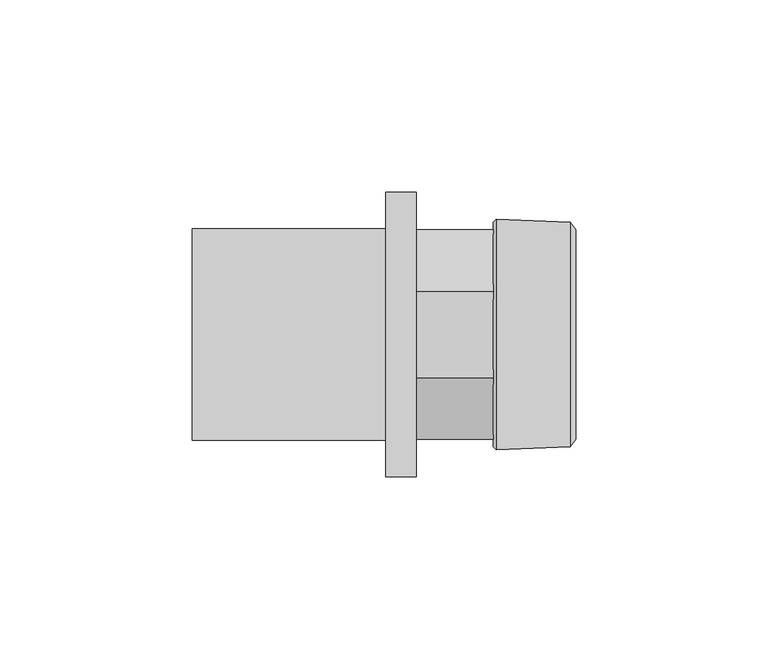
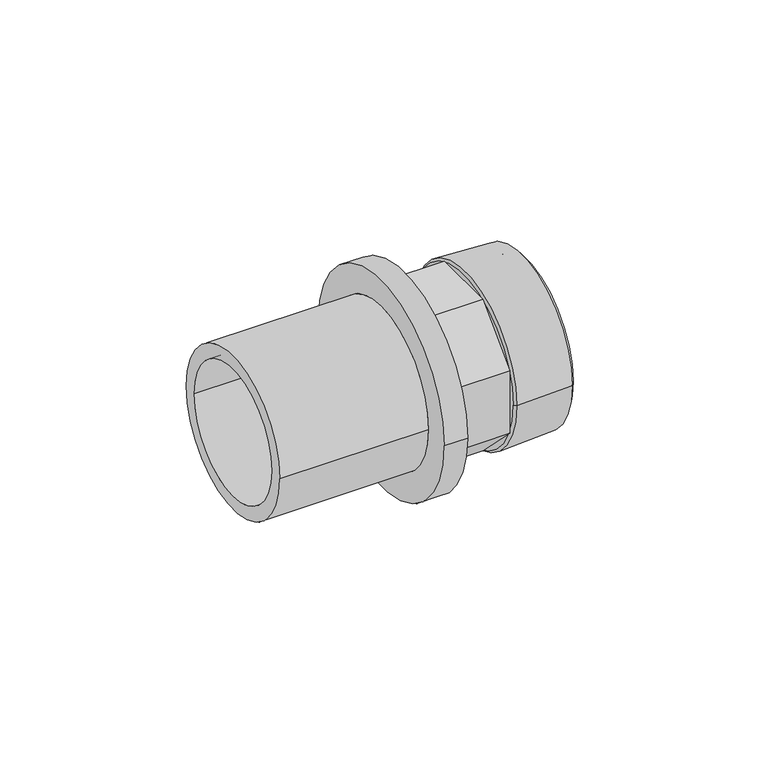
"""IFC4 building model written with IfcOpenShell, lengths in millimetres: pipe fitting geometry, REHAU_RAUTITAN_Adaptor_RX+ stabil, with external thread : REHAU_RAUTITAN_Adaptor_RX+ stabil, with external thread."""

from ifc_helpers import new_model, si_unit, point, frame, origin, origin_2d, place, context, project, spatial, polyline, circle_curve, trimmed, segment, composite_curve, outline, extrude, source, transform, mapped, element, save
from ifc_brep_helpers import plane_surface, cylinder_surface, revolved_surface, advanced_brep


def pipe_fitting_7fd93daa(model_context):
    return source(origin(), model_context, "Body", "SolidModel", [
        advanced_brep(
        [(-58.3, 22.75, 0.0), (-58.3, -22.75, 0.0), (0.0, -22.75, 0.0), (0.0, 22.75, 0.0), (-7.9, 27.55, 0.0), (-7.9, -27.55, 0.0), (-58.3, -27.55, 0.0), (-58.3, 27.55, 0.0), (0.0, 37.0, 0.0), (0.0, -37.0, 0.0), (-7.9, -37.0, 0.0), (-7.9, 37.0, 0.0)],
        [
            (0, 1, circle_curve(frame((-58.3, 0.0, 0.0), z_axis=(-1.0, 0.0, 0.0), x_axis=(0.0, -1.0, 0.0)), 22.75)),
            (1, 2),
            (2, 3, circle_curve(frame((0.0, 0.0, 0.0), z_axis=(1.0, 0.0, 0.0), x_axis=(0.0, -1.0, 0.0)), 22.75)),
            (3, 0),
            (4, 5, circle_curve(frame((-7.9, 0.0, 0.0), z_axis=(-1.0, 0.0, 0.0), x_axis=(0.0, -1.0, 0.0)), 27.55)),
            (5, 6),
            (6, 7, circle_curve(frame((-58.3, 0.0, 0.0), z_axis=(1.0, 0.0, 0.0), x_axis=(0.0, -1.0, 0.0)), 27.55)),
            (7, 4),
            (8, 9, circle_curve(frame((0.0, 0.0, 0.0), z_axis=(-1.0, 0.0, 0.0), x_axis=(0.0, -1.0, 0.0)), 37.0)),
            (9, 10),
            (10, 11, circle_curve(frame((-7.9, 0.0, 0.0), z_axis=(1.0, 0.0, 0.0), x_axis=(0.0, -1.0, 0.0)), 37.0)),
            (11, 8),
            (8, 9, circle_curve(frame((0.0, 0.0, 0.0), z_axis=(1.0, 0.0, 0.0), x_axis=(0.0, 1.0, 0.0)), 37.0)),
            (2, 3, circle_curve(frame((0.0, 0.0, 0.0), z_axis=(-1.0, 0.0, 0.0), x_axis=(0.0, 1.0, 0.0)), 22.75)),
            (1, 0, circle_curve(frame((-58.3, 0.0, 0.0), z_axis=(-1.0, 0.0, 0.0), x_axis=(0.0, 1.0, 0.0)), 22.75)),
            (6, 7, circle_curve(frame((-58.3, 0.0, 0.0), z_axis=(-1.0, 0.0, 0.0), x_axis=(0.0, 1.0, 0.0)), 27.55)),
            (5, 4, circle_curve(frame((-7.9, 0.0, 0.0), z_axis=(-1.0, 0.0, 0.0), x_axis=(0.0, 1.0, 0.0)), 27.55)),
            (10, 11, circle_curve(frame((-7.9, 0.0, 0.0), z_axis=(-1.0, 0.0, 0.0), x_axis=(0.0, 1.0, 0.0)), 37.0)),
        ],
        [
            revolved_surface(polyline([(0.0, -22.75, 0.0), (-58.3, -22.75, 0.0)]), (0.0, 0.0, 0.0), (1.0, 0.0, 0.0)),
            cylinder_surface(frame((0.0, 0.0, 0.0), z_axis=(1.0, 0.0, 0.0), x_axis=(0.0, -1.0, 0.0)), 27.55),
            cylinder_surface(frame((0.0, 0.0, 0.0), z_axis=(1.0, 0.0, 0.0), x_axis=(0.0, -1.0, 0.0)), 37.0),
            plane_surface(frame((0.0, 0.0, 0.0), z_axis=(1.0, 0.0, 0.0), x_axis=(0.0, 1.0, 0.0))),
            revolved_surface(polyline([(0.0, 22.75, 0.0), (-58.3, 22.75, 0.0)]), (0.0, 0.0, 0.0), (1.0, 0.0, 0.0)),
            plane_surface(frame((-58.3, 0.0, 0.0), z_axis=(-1.0, 0.0, 0.0), x_axis=(0.0, 1.0, 0.0))),
            cylinder_surface(frame((0.0, 0.0, 0.0), z_axis=(1.0, 0.0, 0.0), x_axis=(0.0, 1.0, 0.0)), 27.55),
            plane_surface(frame((-7.9, 0.0, 0.0), z_axis=(-1.0, 0.0, 0.0), x_axis=(0.0, 1.0, 0.0))),
            cylinder_surface(frame((0.0, 0.0, 0.0), z_axis=(1.0, 0.0, 0.0), x_axis=(0.0, 1.0, 0.0)), 37.0),
        ],
        [
            (0, [[1, 2, 3, 4]]),
            (1, [[5, 6, 7, 8]]),
            (2, [[9, 10, 11, 12]]),
            (3, [[13, -9], [14, -3]]),
            (4, [[15, -4, -14, -2]]),
            (5, [[16, -7], [-15, -1]]),
            (6, [[17, -8, -16, -6]]),
            (7, [[18, -11], [-17, -5]]),
            (8, [[-13, -12, -18, -10]]),
        ],
    ),
        extrude(outline(polyline([(-11.2873196, -27.25), (-27.25, -11.2873196), (-27.25, 11.2873196), (-11.2873196, 27.25), (11.2873196, 27.25), (27.25, 11.2873196), (27.25, -11.2873196), (11.2873196, -27.25), (-11.2873196, -27.25)]), holes=[composite_curve([segment(trimmed(circle_curve(origin_2d(), 22.75), [point((-22.75, 0.0))], [point((22.75, 0.0))], True, "CARTESIAN"), True, "CONTINUOUS"), segment(trimmed(circle_curve(origin_2d(), 22.75), [point((22.75, 0.0))], [point((-22.75, 0.0))], True, "CARTESIAN"), True, "CONTINUOUS")], self_intersect=False)]), frame((0.0, 0.0, 0.0), z_axis=(1.0, 0.0, 0.0), x_axis=(0.0, 1.0, 0.0)), (0.0, 0.0, 1.0), 20.0),
        advanced_brep(
        [(21.1032803, 24.75, 0.0), (21.1032803, -24.75, 0.0), (41.5, -24.75, 0.0), (41.5, 24.75, 0.0), (20.0, 23.6467197, 0.0), (20.0, -23.6467197, 0.0), (20.7406902, 29.95, 0.0), (20.7406902, -29.95, 0.0), (20.0, -29.2, 0.0), (20.0, 29.2, 0.0), (40.0000007, 29.2, 0.0), (40.0000007, -29.2, 0.0), (41.5, 27.25, 0.0), (41.5, -27.25, 0.0)],
        [
            (0, 1, circle_curve(frame((21.1032803, 0.0, 0.0), z_axis=(-1.0, 0.0, 0.0), x_axis=(0.0, -1.0, 0.0)), 24.75)),
            (1, 2),
            (2, 3, circle_curve(frame((41.5, 0.0, 0.0), z_axis=(1.0, 0.0, 0.0), x_axis=(0.0, -1.0, 0.0)), 24.75)),
            (3, 0),
            (4, 5, circle_curve(frame((20.0, 0.0, 0.0), z_axis=(-1.0, 0.0, 0.0), x_axis=(0.0, -1.0, 0.0)), 23.6467197)),
            (5, 1),
            (0, 4),
            (6, 7, circle_curve(frame((20.7406902, 0.0, 0.0), z_axis=(-1.0, 0.0, 0.0), x_axis=(0.0, -1.0, 0.0)), 29.95)),
            (7, 8),
            (8, 9, circle_curve(frame((20.0, 0.0, 0.0), z_axis=(1.0, 0.0, 0.0), x_axis=(0.0, -1.0, 0.0)), 29.2)),
            (9, 6),
            (10, 11, circle_curve(frame((40.0000007, 0.0, 0.0), z_axis=(-1.0, 0.0, 0.0), x_axis=(0.0, -1.0, 0.0)), 29.2)),
            (11, 7),
            (6, 10),
            (12, 13, circle_curve(frame((41.5, 0.0, 0.0), z_axis=(-1.0, 0.0, 0.0), x_axis=(0.0, -1.0, 0.0)), 27.25)),
            (13, 11),
            (10, 12),
            (1, 0, circle_curve(frame((21.1032803, 0.0, 0.0), z_axis=(-1.0, 0.0, 0.0), x_axis=(0.0, 1.0, 0.0)), 24.75)),
            (3, 2, circle_curve(frame((41.5, 0.0, 0.0), z_axis=(1.0, 0.0, 0.0), x_axis=(0.0, 1.0, 0.0)), 24.75)),
            (5, 4, circle_curve(frame((20.0, 0.0, 0.0), z_axis=(-1.0, 0.0, 0.0), x_axis=(0.0, 1.0, 0.0)), 23.6467197)),
            (8, 9, circle_curve(frame((20.0, 0.0, 0.0), z_axis=(-1.0, 0.0, 0.0), x_axis=(0.0, 1.0, 0.0)), 29.2)),
            (7, 6, circle_curve(frame((20.7406902, 0.0, 0.0), z_axis=(-1.0, 0.0, 0.0), x_axis=(0.0, 1.0, 0.0)), 29.95)),
            (11, 10, circle_curve(frame((40.0000007, 0.0, 0.0), z_axis=(-1.0, 0.0, 0.0), x_axis=(0.0, 1.0, 0.0)), 29.2)),
            (13, 12, circle_curve(frame((41.5, 0.0, 0.0), z_axis=(-1.0, 0.0, 0.0), x_axis=(0.0, 1.0, 0.0)), 27.25)),
        ],
        [
            revolved_surface(polyline([(41.5, -24.75, 0.0), (21.1032803, -24.75, 0.0)]), (0.0, 0.0, 0.0), (1.0, 0.0, 0.0)),
            revolved_surface(polyline([(21.1032803, -24.75, 0.0), (20.0, -23.6467197, 0.0)]), (0.0, 0.0, 0.0), (1.0, 0.0, 0.0)),
            revolved_surface(polyline([(20.0, -29.2, 0.0), (20.7406902, -29.95, 0.0)]), (0.0, 0.0, 0.0), (1.0, 0.0, 0.0)),
            revolved_surface(polyline([(20.7406902, -29.95, 0.0), (40.0000007, -29.2, 0.0)]), (0.0, 0.0, 0.0), (1.0, 0.0, 0.0)),
            revolved_surface(polyline([(40.0000007, -29.2, 0.0), (41.5, -27.25, 0.0)]), (0.0, 0.0, 0.0), (1.0, 0.0, 0.0)),
            revolved_surface(polyline([(41.5, 24.75, 0.0), (21.1032803, 24.75, 0.0)]), (0.0, 0.0, 0.0), (1.0, 0.0, 0.0)),
            revolved_surface(polyline([(21.1032803, 24.75, 0.0), (20.0, 23.6467197, 0.0)]), (0.0, 0.0, 0.0), (1.0, 0.0, 0.0)),
            plane_surface(frame((20.0, 0.0, 0.0), z_axis=(-1.0, 0.0, 0.0), x_axis=(0.0, 1.0, 0.0))),
            revolved_surface(polyline([(20.0, 29.2, 0.0), (20.7406902, 29.95, 0.0)]), (0.0, 0.0, 0.0), (1.0, 0.0, 0.0)),
            revolved_surface(polyline([(20.7406902, 29.95, 0.0), (40.0000007, 29.2, 0.0)]), (0.0, 0.0, 0.0), (1.0, 0.0, 0.0)),
            revolved_surface(polyline([(40.0000007, 29.2, 0.0), (41.5, 27.25, 0.0)]), (0.0, 0.0, 0.0), (1.0, 0.0, 0.0)),
            plane_surface(frame((41.5, 0.0, 0.0), z_axis=(1.0, 0.0, 0.0), x_axis=(0.0, 1.0, 0.0))),
        ],
        [
            (0, [[1, 2, 3, 4]]),
            (1, [[5, 6, -1, 7]]),
            (2, [[8, 9, 10, 11]]),
            (3, [[12, 13, -8, 14]]),
            (4, [[15, 16, -12, 17]]),
            (5, [[18, -4, 19, -2]]),
            (6, [[20, -7, -18, -6]]),
            (7, [[21, -10], [-20, -5]]),
            (8, [[22, -11, -21, -9]]),
            (9, [[23, -14, -22, -13]]),
            (10, [[24, -17, -23, -16]]),
            (11, [[-24, -15], [-19, -3]]),
        ],
    ),
    ])


if __name__ == "__main__":
    model = new_model("IFC4")
    model_context = context("Model", 3, world=origin())
    ifc_project = project(units=[si_unit("LENGTHUNIT", "METRE", prefix="MILLI")], contexts=[model_context])
    site = spatial("IfcSite", under=ifc_project)
    building = spatial("IfcBuilding", under=site)
    placement = place(None, origin())
    pipe_fitting_shape = pipe_fitting_7fd93daa(model_context)
    element("IfcPipeFitting", 1, ObjectType="REHAU_RAUTITAN_Adaptor_RX+ stabil, with external thread : REHAU_RAUTITAN_Adaptor_RX+ stabil, with external thread", at=placement, inside=building, context=model_context, shape_type="MappedRepresentation", body=[
        mapped(pipe_fitting_shape, transform((0.0, 0.0, 0.0), x_axis=(1.0, 0.0, 0.0), y_axis=(0.0, 1.0, 0.0), z_axis=(0.0, 0.0, 1.0))),
    ])
    save(model, "model.ifc")
